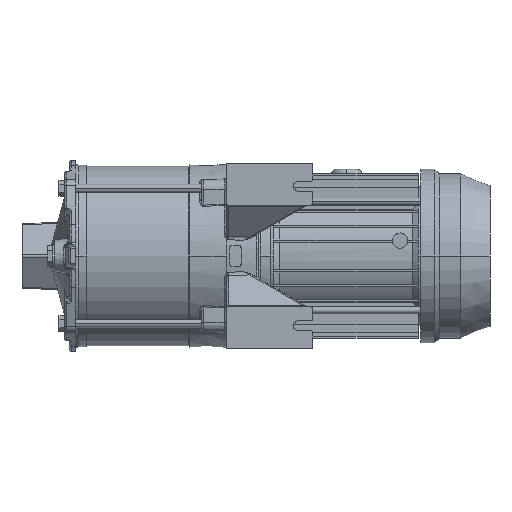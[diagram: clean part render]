
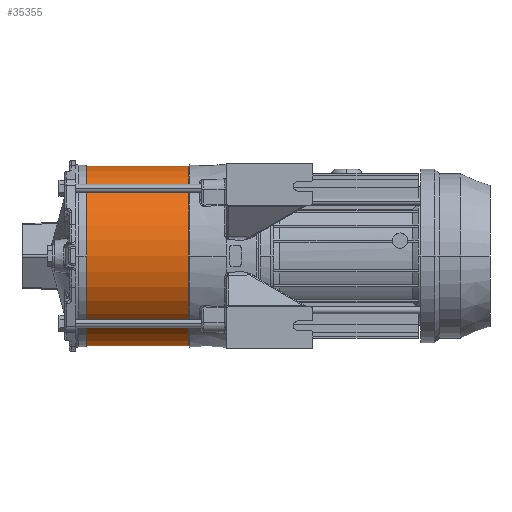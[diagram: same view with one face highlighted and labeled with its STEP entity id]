
A CAD part, front view. The second image highlights one B-rep face of the part: STEP entity #35355.
In plain terms, the highlighted cylindrical face has radius 64.5 mm (diameter 129 mm), a partial arc.
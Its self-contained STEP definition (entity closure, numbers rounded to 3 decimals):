
#35210=CARTESIAN_POINT('',(0.,0.,0.));
#35211=DIRECTION('',(0.,0.,1.));
#35212=DIRECTION('',(-1.,0.,0.));
#35213=AXIS2_PLACEMENT_3D('',#35210,#35211,#35212);
#35234=DIRECTION('',(0.,0.,1.));
#35235=VECTOR('',#35234,73.);
#35236=CARTESIAN_POINT('',(64.5,0.,0.));
#35237=LINE('',#35236,#35235);
#35241=DIRECTION('',(0.,0.,1.));
#35242=VECTOR('',#35241,73.);
#35243=CARTESIAN_POINT('',(-64.5,0.,0.));
#35244=LINE('',#35243,#35242);
#35256=CARTESIAN_POINT('',(0.,0.,73.));
#35257=DIRECTION('',(0.,0.,1.));
#35258=DIRECTION('',(-1.,0.,0.));
#35259=AXIS2_PLACEMENT_3D('',#35256,#35257,#35258);
#35294=CARTESIAN_POINT('',(64.5,0.,0.));
#35295=CARTESIAN_POINT('',(-64.5,0.,0.));
#35296=VERTEX_POINT('',#35294);
#35297=VERTEX_POINT('',#35295);
#35302=CARTESIAN_POINT('',(64.5,0.,73.));
#35303=CARTESIAN_POINT('',(-64.5,0.,73.));
#35304=VERTEX_POINT('',#35302);
#35305=VERTEX_POINT('',#35303);
#35343=CARTESIAN_POINT('',(0.,0.,0.));
#35344=DIRECTION('',(0.,0.,1.));
#35345=DIRECTION('',(1.,0.,0.));
#35346=AXIS2_PLACEMENT_3D('',#35343,#35344,#35345);
#35347=CYLINDRICAL_SURFACE('',#35346,64.5);
#35348=ORIENTED_EDGE('',*,*,#35317,.F.);
#35349=ORIENTED_EDGE('',*,*,#35338,.T.);
#35351=ORIENTED_EDGE('',*,*,#35350,.T.);
#35352=ORIENTED_EDGE('',*,*,#35334,.F.);
#35353=EDGE_LOOP('',(#35348,#35349,#35351,#35352));
#35354=FACE_OUTER_BOUND('',#35353,.F.);
#35214=CIRCLE('',#35213,64.5);
#35260=CIRCLE('',#35259,64.5);
#35317=EDGE_CURVE('',#35297,#35296,#35214,.T.);
#35334=EDGE_CURVE('',#35296,#35304,#35237,.T.);
#35338=EDGE_CURVE('',#35297,#35305,#35244,.T.);
#35350=EDGE_CURVE('',#35305,#35304,#35260,.T.);
#35355=ADVANCED_FACE('',(#35354),#35347,.T.);
